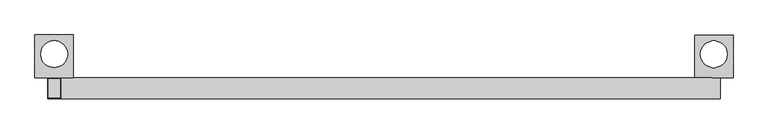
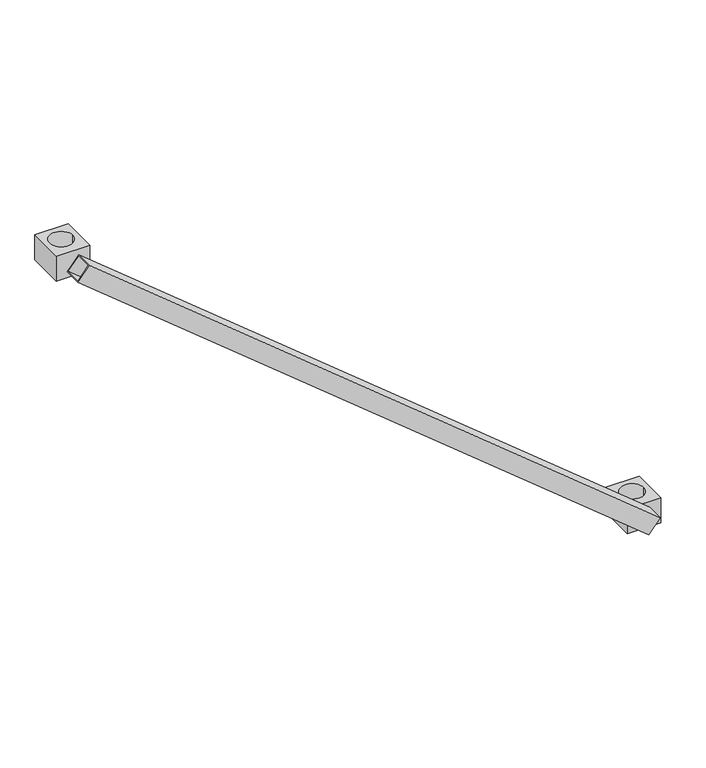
"""IFC4 building model written with IfcOpenShell, lengths in millimetres: proxy geometry, AK_アルバトロスAK伸縮斜材 : H1350×L1200."""

import ifcopenshell
import ifcopenshell.guid

model = None  # the IFC model being written
_history = None  # IfcOwnerHistory: only IFC2X3 demands one
_inside = {}  # id of a spatial element -> (the spatial element, [elements in it])
_under = {}  # id of a project, library or spatial element -> (it, [spatial elements below it])
_declared = {}  # id of a project -> (the project, [libraries it declares])
_typed = {}  # id of a type object -> (the type object, [elements of that type])
_made_of = {}  # id of a material, layer set ... -> (it, [elements and type objects made of it])


def new_model(schema):
    """Start an empty IFC model of exactly this schema.

    Asked for "IFC4X3", IfcOpenShell would pick the latest addendum, in which some entities
    have other attributes; the version numbers below select the first issue.
    IFC2X3 requires an IfcOwnerHistory on every rooted entity: one is made here for all.
    """
    global model, _history
    if schema == "IFC4X3":
        model = ifcopenshell.file(schema_version=(4, 3, 0, 0))
    else:
        model = ifcopenshell.file(schema=schema)
    _inside.clear()
    _under.clear()
    _declared.clear()
    _typed.clear()
    _made_of.clear()
    _history = None
    if model.schema == "IFC2X3":
        org = make("IfcOrganization", Name="unknown")
        user = make(
            "IfcPersonAndOrganization",
            ThePerson=make("IfcPerson", FamilyName="unknown"),
            TheOrganization=org,
        )
        app = make(
            "IfcApplication",
            ApplicationDeveloper=org,
            Version="unknown",
            ApplicationFullName="unknown",
            ApplicationIdentifier="unknown",
        )
        _history = make(
            "IfcOwnerHistory",
            OwningUser=user,
            OwningApplication=app,
            ChangeAction="ADDED",
            CreationDate=0,
        )
    return model


def make(cls, **values):
    """One entity of the class cls with the attributes given. An attribute that is None is left unset."""
    return model.create_entity(
        cls, **{name: value for name, value in values.items() if value is not None}
    )


def rooted(cls, **values):
    """An entity with a GlobalId (a new one), such as an element, a storey or a relation."""
    return make(cls, GlobalId=ifcopenshell.guid.new(), OwnerHistory=_history, **values)


def si_unit(unit_type, name, prefix=None):
    """IfcSIUnit, for example si_unit("LENGTHUNIT", "METRE", prefix="MILLI")."""
    return make("IfcSIUnit", UnitType=unit_type, Prefix=prefix, Name=name)


def assignment(units):
    """IfcUnitAssignment: the units of a project."""
    return None if units is None else make("IfcUnitAssignment", Units=units)


def point(xyz):
    """IfcCartesianPoint."""
    return None if xyz is None else make("IfcCartesianPoint", Coordinates=xyz)


def direction(xyz):
    """IfcDirection."""
    return None if xyz is None else make("IfcDirection", DirectionRatios=xyz)


def frame(location, z_axis=None, x_axis=None):
    """IfcAxis2Placement3D, a coordinate frame: its origin and axes. An axis left out is left unset."""
    return make(
        "IfcAxis2Placement3D",
        Location=point(location),
        Axis=direction(z_axis),
        RefDirection=direction(x_axis),
    )


def frame_2d(location, x_axis=None):
    """IfcAxis2Placement2D, a coordinate frame in the plane: its origin and x axis."""
    return make(
        "IfcAxis2Placement2D", Location=point(location), RefDirection=direction(x_axis)
    )


def origin():
    """The frame at (0, 0, 0) with its axes left unset."""
    return frame((0.0, 0.0, 0.0))


def place(relative_to, where):
    """IfcLocalPlacement: puts the frame where relative to a parent placement (None: the world)."""
    return make(
        "IfcLocalPlacement", PlacementRelTo=relative_to, RelativePlacement=where
    )


def context(
    kind, dimensions, precision=None, world=None, true_north=None, identifier=None
):
    """IfcGeometricRepresentationContext, for example the 3D "Model" context."""
    return make(
        "IfcGeometricRepresentationContext",
        ContextIdentifier=identifier,
        ContextType=kind,
        CoordinateSpaceDimension=dimensions,
        Precision=precision,
        WorldCoordinateSystem=world,
        TrueNorth=true_north,
    )


def project(units=None, contexts=None):
    """IfcProject with its units and contexts."""
    return rooted(
        "IfcProject",
        Name="project",
        RepresentationContexts=contexts,
        UnitsInContext=assignment(units),
    )


def spatial(cls, under=None, at=None, **own):
    """A site, building, storey or space (cls), placed at a placement, below another one or the project."""
    s = rooted(cls, ObjectPlacement=at, **own)
    if under is not None:
        _under.setdefault(under.id(), (under, []))[1].append(s)
    return s


def polyline(points):
    """IfcPolyline through the points."""
    return make("IfcPolyline", Points=[point(p) for p in points])


def circle_curve(where, radius):
    """IfcCircle in the frame where."""
    return make("IfcCircle", Position=where, Radius=radius)


def trimmed(basis, trim1, trim2, sense, master):
    """IfcTrimmedCurve: the piece of a basis curve between two trims."""
    return make(
        "IfcTrimmedCurve",
        BasisCurve=basis,
        Trim1=trim1,
        Trim2=trim2,
        SenseAgreement=sense,
        MasterRepresentation=master,
    )


def segment(curve, same_sense, transition):
    """IfcCompositeCurveSegment."""
    return make(
        "IfcCompositeCurveSegment",
        Transition=transition,
        SameSense=same_sense,
        ParentCurve=curve,
    )


def composite_curve(segments, self_intersect=None):
    """IfcCompositeCurve: segments joined end to end."""
    return make("IfcCompositeCurve", Segments=segments, SelfIntersect=self_intersect)


def outline(outer, holes=None, kind="AREA"):
    """IfcArbitraryClosedProfileDef: a profile drawn as a closed curve; with holes, ...WithVoids."""
    if holes is None:
        return make("IfcArbitraryClosedProfileDef", ProfileType=kind, OuterCurve=outer)
    return make(
        "IfcArbitraryProfileDefWithVoids",
        ProfileType=kind,
        OuterCurve=outer,
        InnerCurves=holes,
    )


def extrude(swept, where, along, depth):
    """IfcExtrudedAreaSolid: the profile swept, set in the frame where, extruded along a direction by depth."""
    return make(
        "IfcExtrudedAreaSolid",
        SweptArea=swept,
        Position=where,
        ExtrudedDirection=direction(along),
        Depth=depth,
    )


def shape(context_of_items, identifier, shape_type, items):
    """IfcShapeRepresentation: the items that make up one representation, for example the "Body"."""
    return make(
        "IfcShapeRepresentation",
        ContextOfItems=context_of_items,
        RepresentationIdentifier=identifier,
        RepresentationType=shape_type,
        Items=items,
    )


def source(mapping_origin, context_of_items, identifier, shape_type, items):
    """IfcRepresentationMap: a shape defined once, which mapped items show again and again."""
    return make(
        "IfcRepresentationMap",
        MappingOrigin=mapping_origin,
        MappedRepresentation=shape(context_of_items, identifier, shape_type, items),
    )


def transform(
    local_origin,
    x_axis=None,
    y_axis=None,
    z_axis=None,
    scale=None,
    scale2=None,
    scale3=None,
    uniform=True,
):
    """IfcCartesianTransformationOperator3D, or its non-uniform kind. x_axis, y_axis, z_axis: its Axis1, 2, 3."""
    if uniform:
        return make(
            "IfcCartesianTransformationOperator3D",
            Axis1=direction(x_axis),
            Axis2=direction(y_axis),
            LocalOrigin=point(local_origin),
            Scale=scale,
            Axis3=direction(z_axis),
        )
    return make(
        "IfcCartesianTransformationOperator3DnonUniform",
        Axis1=direction(x_axis),
        Axis2=direction(y_axis),
        LocalOrigin=point(local_origin),
        Scale=scale,
        Axis3=direction(z_axis),
        Scale2=scale2,
        Scale3=scale3,
    )


def mapped(mapping_source, mapping_target):
    """IfcMappedItem: shows the shape of a source again, moved by a transform."""
    return make(
        "IfcMappedItem", MappingSource=mapping_source, MappingTarget=mapping_target
    )


def made_of(thing, what):
    """Note that an element or type object is made of a material, layer set ...; save() writes the relation."""
    if what is not None:
        _made_of.setdefault(what.id(), (what, []))[1].append(thing)
    return thing


def element(
    cls,
    number,
    at=None,
    inside=None,
    cuts=None,
    type_object=None,
    material=None,
    context=None,
    identifier="Body",
    shape_type=None,
    held_by="IfcProductDefinitionShape",
    body=None,
    shapes=None,
    **own,
):
    """One element of the class cls, such as IfcWall. Its Tag is "e" and its number.

    at: its placement. inside: the storey or other place that contains it. cuts: it is an
    opening in that element (IfcRelVoidsElement). A single representation is given by context,
    identifier, shape_type and body (its items); several are given by shapes. held_by: the class
    of the entity that holds the representations. save() writes the other relations.
    """
    e = rooted(cls, Tag="e%d" % number, ObjectPlacement=at, **own)
    if body is not None:
        shapes = [shape(context, identifier, shape_type, body)]
    if shapes is not None:
        e.Representation = make(held_by, Representations=shapes)
    if inside is not None:
        _inside.setdefault(inside.id(), (inside, []))[1].append(e)
    if cuts is not None:
        rooted(
            "IfcRelVoidsElement", RelatingBuildingElement=cuts, RelatedOpeningElement=e
        )
    if type_object is not None:
        _typed.setdefault(type_object.id(), (type_object, []))[1].append(e)
    return made_of(e, material)


def aggregate(whole, parts):
    """IfcRelAggregates: a whole, such as a stair, and the parts it consists of."""
    return rooted("IfcRelAggregates", RelatingObject=whole, RelatedObjects=parts)


def save(model, path):
    """Write the relations noted so far, then the file.

    IfcRelAggregates (storeys below a building ...), IfcRelContainedInSpatialStructure (elements
    in a storey), IfcRelDefinesByType, IfcRelAssociatesMaterial and IfcRelDeclares: one each for
    every whole, place, type object, material and project.
    """
    for whole, parts in _under.values():
        aggregate(whole, parts)
    for where, things in _inside.values():
        rooted(
            "IfcRelContainedInSpatialStructure",
            RelatedElements=things,
            RelatingStructure=where,
        )
    for kind, things in _typed.values():
        rooted("IfcRelDefinesByType", RelatedObjects=things, RelatingType=kind)
    for what, things in _made_of.values():
        rooted("IfcRelAssociatesMaterial", RelatedObjects=things, RelatingMaterial=what)
    for by, libraries in _declared.values():
        rooted("IfcRelDeclares", RelatingContext=by, RelatedDefinitions=libraries)
    model.write(path)


def generic_models_b59a73c9(model_context):
    return source(origin(), model_context, "Body", "SweptSolid", [
        extrude(outline(polyline([(0.0, 0.0), (0.0, -38.0), (-38.0, -38.0), (-38.0, 0.0), (0.0, 0.0)]), holes=[polyline([(-2.0, -2.0), (-36.0, -2.0), (-36.0, -36.0), (-2.0, -36.0), (-2.0, -2.0)])]), frame((12.0260297, 19.0, 14.7096774), z_axis=(-0.7741935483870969, 0.0, 0.6329489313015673), x_axis=(0.6329489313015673, 0.0, 0.7741935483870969)), (0.0, 0.0, 1.0), 1550.0),
        extrude(outline(polyline([(35.0, 96.8842695), (35.0, 19.0), (-35.0, 19.0), (-35.0, 96.8842695), (35.0, 96.8842695)]), holes=[composite_curve([segment(trimmed(circle_curve(frame_2d((0.0, 61.8842695)), 24.3), [point((24.3, 61.8842695))], [point((-24.3, 61.8842695))], True, "CARTESIAN"), True, "CONTINUOUS"), segment(trimmed(circle_curve(frame_2d((0.0, 61.8842695)), 24.3), [point((-24.3, 61.8842695))], [point((24.3, 61.8842695))], True, "CARTESIAN"), True, "CONTINUOUS")], self_intersect=False)]), frame((0.0, 0.0, -27.7559086), z_axis=(0.0, 0.0, 1.0), x_axis=(1.0, 0.0, 0.0)), (0.0, 0.0, 1.0), 55.5118171),
        extrude(outline(polyline([(-1165.0, 19.0), (-1235.0, 19.0), (-1235.0, 96.8842695), (-1165.0, 96.8842695), (-1165.0, 19.0)]), holes=[composite_curve([segment(trimmed(circle_curve(frame_2d((-1200.0, 61.8842695)), 24.3), [point((-1175.7, 61.8842695))], [point((-1224.3, 61.8842695))], True, "CARTESIAN"), True, "CONTINUOUS"), segment(trimmed(circle_curve(frame_2d((-1200.0, 61.8842695)), 24.3), [point((-1224.3, 61.8842695))], [point((-1175.7, 61.8842695))], True, "CARTESIAN"), True, "CONTINUOUS")], self_intersect=False)]), frame((0.0, 0.0, 953.314935), z_axis=(0.0, 0.0, 1.0), x_axis=(1.0, 0.0, 0.0)), (0.0, 0.0, 1.0), 55.5118171),
    ])


if __name__ == "__main__":
    model = new_model("IFC4")
    model_context = context("Model", 3, world=origin())
    ifc_project = project(units=[si_unit("LENGTHUNIT", "METRE", prefix="MILLI")], contexts=[model_context])
    site = spatial("IfcSite", under=ifc_project)
    building = spatial("IfcBuilding", under=site)
    placement = place(None, origin())
    generic_models_shape = generic_models_b59a73c9(model_context)
    element("IfcBuildingElementProxy", 1, Name="AK_アルバトロスAK伸縮斜材 : H1350×L1200", ObjectType="AK_アルバトロスAK伸縮斜材 : H1350×L1200", at=placement, inside=building, context=model_context, shape_type="MappedRepresentation", body=[
        mapped(generic_models_shape, transform((0.0, 0.0, 0.0), x_axis=(1.0, 0.0, 0.0), y_axis=(0.0, 1.0, 0.0), z_axis=(0.0, 0.0, 1.0))),
    ])
    save(model, "model.ifc")
